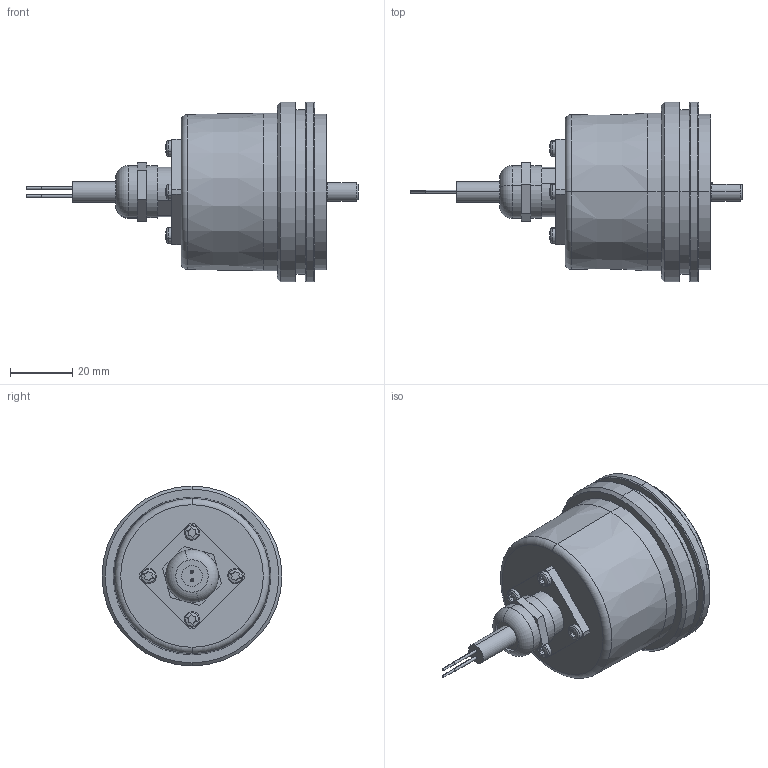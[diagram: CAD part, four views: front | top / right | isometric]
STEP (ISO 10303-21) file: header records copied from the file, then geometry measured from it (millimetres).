
FILE_DESCRIPTION (( 'STEP AP214' ), '1' );
FILE_NAME ('5000.B1X1.XXXX.STEP', '2008-12-11T10:00:29', ( 'admin' ), ( 'Fritz Kübler GmbH' ), 'SwSTEP 2.0', 'SolidWorks 2008', '' );
FILE_SCHEMA (( 'AUTOMOTIVE_DESIGN' ));
Length unit declared in the file: millimetre
Products named in the file (1): 5000.B1X1.XXXX
Bounding box: 107 x 58 x 58 mm (x, y, z)
Volume: 64037.8 mm3; surface area: 37302.6 mm2
Topology: 12 solids, 13 shells, 546 faces, 1268 edges, 764 vertices
Faces by surface type: plane 169, cylinder 156, cone 99, torus 75, sphere 35, bspline 12
Entity records: 22395 total; most frequent: CARTESIAN_POINT 3805, DIRECTION 2866, ORIENTED_EDGE 2404, AXIS2_PLACEMENT_3D 1205, EDGE_CURVE 1202, VERTEX_POINT 734, CIRCLE 670, EDGE_LOOP 640
